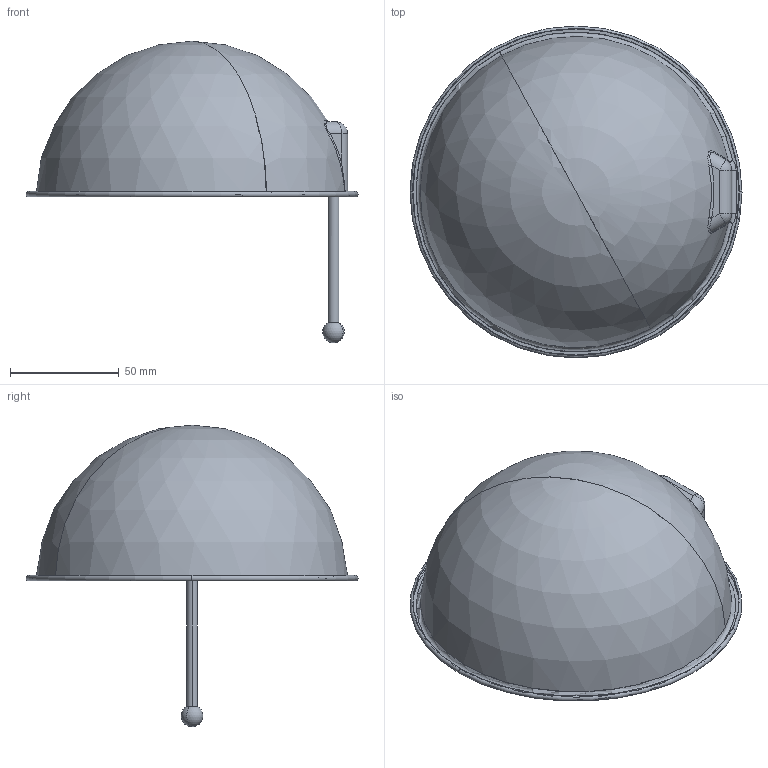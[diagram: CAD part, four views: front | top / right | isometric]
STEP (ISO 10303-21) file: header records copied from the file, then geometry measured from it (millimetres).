
FILE_DESCRIPTION(('CATIA V5 STEP Exchange'),'2;1');
FILE_NAME('E:\Etudes_avions\Sites_web\Apprendre_la_CAO\Sujets\Lampe bureau\Reflecteur.stp','2017-08-03T16:23:16+00:00',('none'),('none'),'CATIA Version 5 Release 21 GA (IN-10)','CATIA V5 STEP AP203','none');
FILE_SCHEMA(('CONFIG_CONTROL_DESIGN'));
Length unit declared in the file: millimetre
Products named in the file (1): Reflecteur
Bounding box: 152.5 x 152.5 x 138.5 mm (x, y, z)
Volume: 25464.3 mm3; surface area: 76656.1 mm2
Topology: 2 solids, 2 shells, 98 faces, 232 edges, 129 vertices
Faces by surface type: cylinder 26, plane 24, torus 18, bspline 16, sphere 10, revolution 4
Entity records: 3719 total; most frequent: CARTESIAN_POINT 1751, ORIENTED_EDGE 436, DIRECTION 294, EDGE_CURVE 218, AXIS2_PLACEMENT_3D 167, VERTEX_POINT 129, EDGE_LOOP 105, ADVANCED_FACE 98
